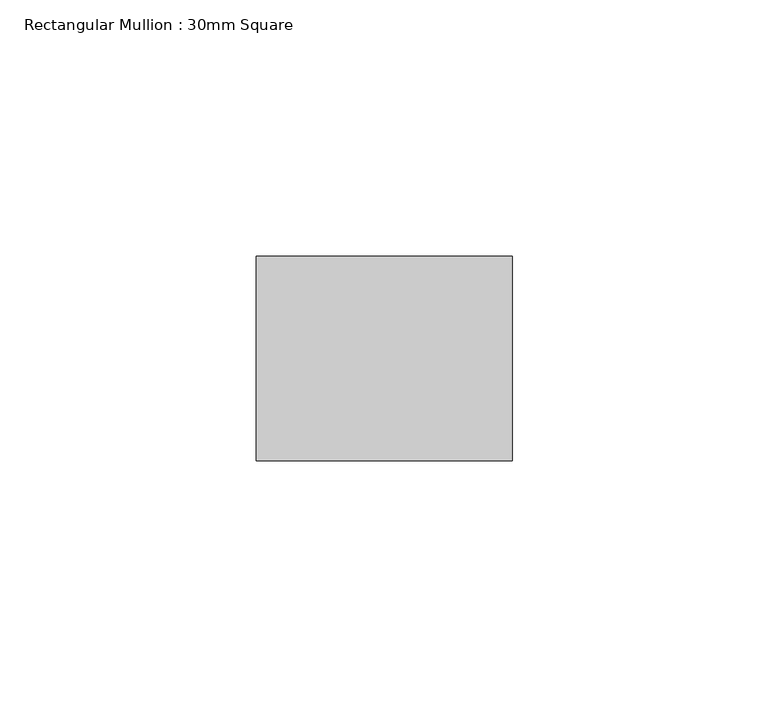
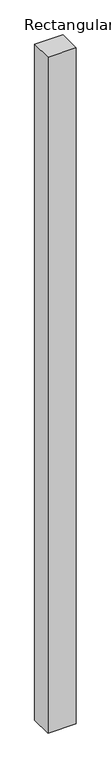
"""IFC4 building model written with IfcOpenShell, lengths in millimetres: member geometry, Rectangular Mullion : 30mm Square."""

from ifc_helpers import new_model, si_unit, frame, origin, place, context, project, spatial, polyline, outline, extrude, source, transform, mapped, element, save


def rectangular_mullion_30mm_square_99fc8dea(model_context):
    return source(origin(), model_context, "Body", "SweptSolid", [
        extrude(outline(polyline([(0.0, 20.0), (0.0, -20.0), (-50.0, -20.0), (-50.0, 20.0), (0.0, 20.0)])), frame((0.0, 0.0, -1257.5841161), z_axis=(0.0, 0.0, 1.0), x_axis=(1.0, 0.0, 0.0)), (0.0, 0.0, 1.0), 1257.5841161),
    ])


if __name__ == "__main__":
    model = new_model("IFC4")
    model_context = context("Model", 3, world=origin())
    ifc_project = project(units=[si_unit("LENGTHUNIT", "METRE", prefix="MILLI")], contexts=[model_context])
    site = spatial("IfcSite", under=ifc_project)
    building = spatial("IfcBuilding", under=site)
    placement = place(None, origin())
    rectangular_mullion_30mm_square_shape = rectangular_mullion_30mm_square_99fc8dea(model_context)
    element("IfcMember", 1, ObjectType="Rectangular Mullion : 30mm Square", at=placement, inside=building, context=model_context, shape_type="MappedRepresentation", body=[
        mapped(rectangular_mullion_30mm_square_shape, transform((0.0, 0.0, 0.0), x_axis=(1.0, 0.0, 0.0), y_axis=(0.0, 1.0, 0.0), z_axis=(0.0, 0.0, 1.0))),
    ])
    save(model, "model.ifc")
